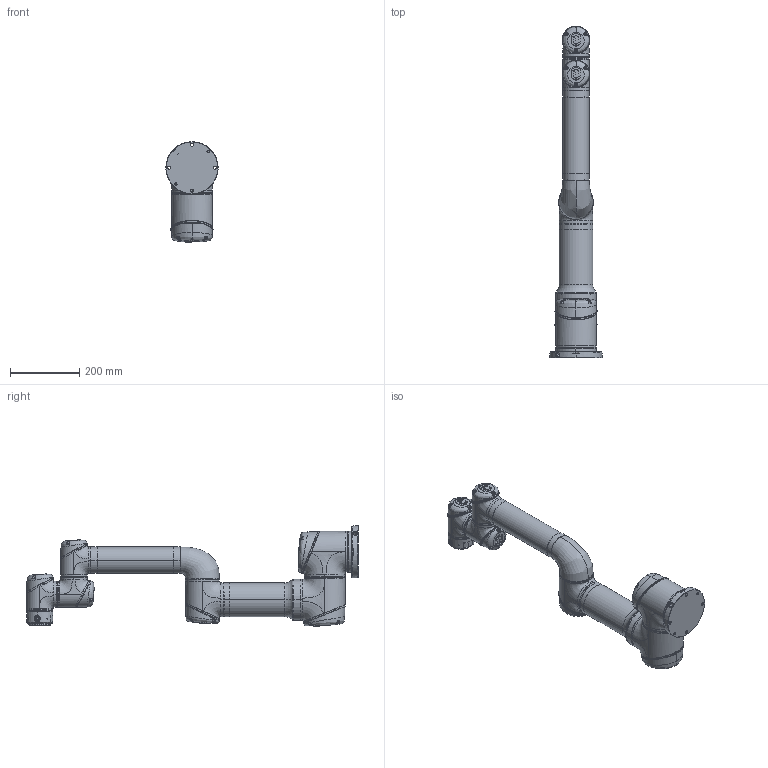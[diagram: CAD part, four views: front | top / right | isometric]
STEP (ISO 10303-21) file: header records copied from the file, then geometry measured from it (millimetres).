
FILE_DESCRIPTION (( 'STEP AP203' ), '1' );
FILE_NAME ('EC_掛极EC68_V1.1.STEP', '2023-03-29T07:35:43', ( '' ), ( '' ), 'SwSTEP 2.0', 'SolidWorks 2017', '' );
FILE_SCHEMA (( 'CONFIG_CONTROL_DESIGN' ));
Length unit declared in the file: millimetre
Products named in the file (8): EC68-LINK1; EC68-LINK4; EC68-BASE; EC68-LINK5; EC68-LINK3; EC68-LINK2; EC68-LINK6; EC_掛极EC68_V1.1
Assembly tree (7 placements, depth 2):
  EC_掛极EC68_V1.1
    EC68-BASE
    EC68-LINK1
    EC68-LINK2
    EC68-LINK3
    EC68-LINK4
    EC68-LINK5
    EC68-LINK6
Bounding box: 150 x 955.57 x 289.07 mm (x, y, z)
Volume: 10277885.3 mm3; surface area: 608466 mm2
Topology: 11 solids, 19 shells, 2075 faces, 4744 edges, 2809 vertices
Faces by surface type: bspline 1238, cylinder 259, plane 240, cone 208, torus 130
Entity records: 167307 total; most frequent: CARTESIAN_POINT 128664, ORIENTED_EDGE 9440, DIRECTION 5484, EDGE_CURVE 4720, VERTEX_POINT 2809, B_SPLINE_CURVE_WITH_KNOTS 2494, AXIS2_PLACEMENT_3D 2453, EDGE_LOOP 2217
